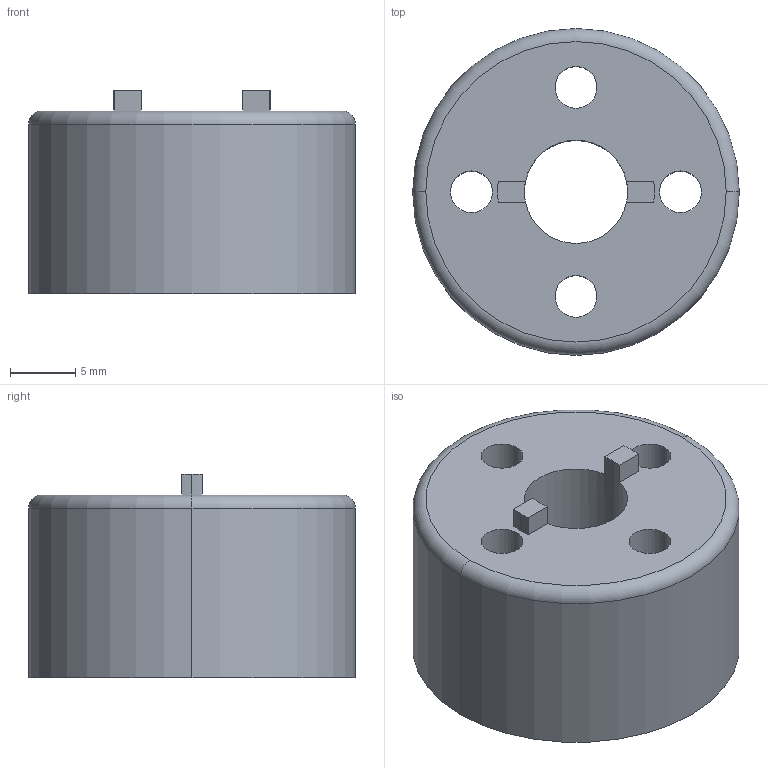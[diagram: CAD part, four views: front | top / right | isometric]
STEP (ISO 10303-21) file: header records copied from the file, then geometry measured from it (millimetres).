
FILE_DESCRIPTION(('CATIA V5 STEP Exchange'),'2;1');
FILE_NAME('D:\姚明阳\速降阀压支撑圈工装2\GZ24.02_V1.stp','2021-03-14T07:47:12+00:00',('none'),('none'),'CATIA Version 5 Release 21 GA (IN-10)','CATIA V5 STEP AP214','none');
FILE_SCHEMA(('AUTOMOTIVE_DESIGN { 1 0 10303 214 1 1 1 1 }'));
Length unit declared in the file: millimetre
Products named in the file (1): Part1
Bounding box: 25 x 25 x 15.6 mm (x, y, z)
Volume: 5729.6 mm3; surface area: 2818.8 mm2
Topology: 1 solids, 1 shells, 26 faces, 70 edges, 46 vertices
Faces by surface type: cylinder 16, plane 8, torus 2
Entity records: 780 total; most frequent: ORIENTED_EDGE 140, CARTESIAN_POINT 131, DIRECTION 98, EDGE_CURVE 70, AXIS2_PLACEMENT_3D 55, VERTEX_POINT 46, CIRCLE 40, EDGE_LOOP 36
